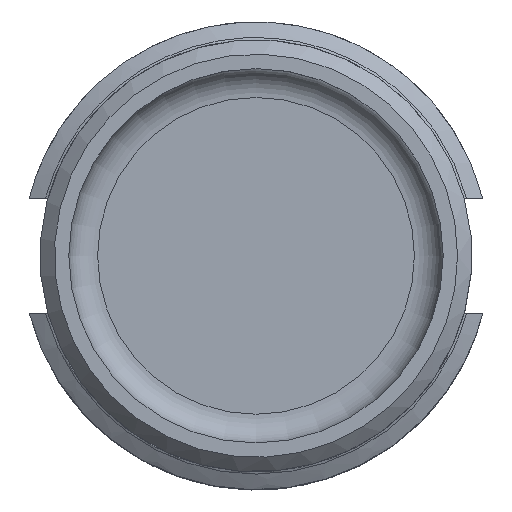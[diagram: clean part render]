
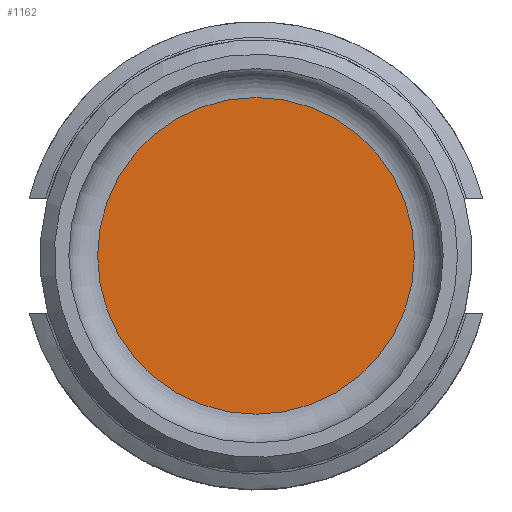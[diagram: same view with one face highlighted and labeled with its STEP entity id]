
A CAD part, top view. The second image highlights one B-rep face of the part: STEP entity #1162.
In plain terms, the highlighted planar face has unit normal (0, 0, 1).
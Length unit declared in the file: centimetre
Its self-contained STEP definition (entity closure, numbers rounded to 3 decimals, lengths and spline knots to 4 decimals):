
#394=VERTEX_POINT('',#24589);
#640=EDGE_CURVE('',#394,#394,#1587,.T.);
#933=ORIENTED_EDGE('',*,*,#640,.F.);
#1011=EDGE_LOOP('',(#933));
#1089=FACE_BOUND('',#1011,.T.);
#1162=ADVANCED_FACE('',(#1089),#1905,.T.);
#1587=CIRCLE('',#1822,1.1);
#1822=AXIS2_PLACEMENT_3D('',#24588,#2071,#2072);
#1825=AXIS2_PLACEMENT_3D('',#24593,#2077,$);
#1905=PLANE('',#1825);
#2071=DIRECTION('',(0.,0.,-1.));
#2072=DIRECTION('',(-1.1,0.,0.));
#2077=DIRECTION('',(0.,0.,1.));
#24588=CARTESIAN_POINT('',(0.,0.,1.1));
#24589=CARTESIAN_POINT('',(1.1,0.,1.1));
#24593=CARTESIAN_POINT('',(0.,0.,1.1));
